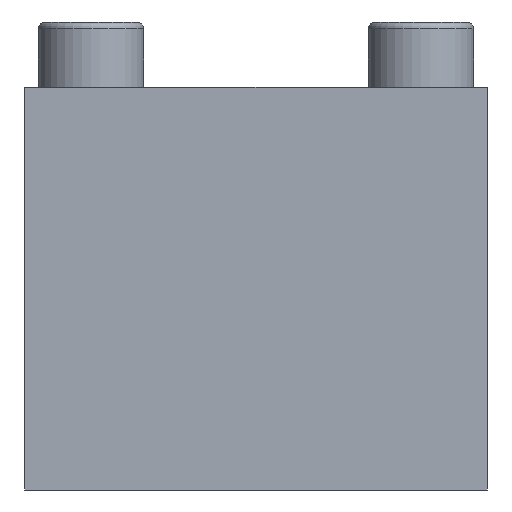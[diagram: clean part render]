
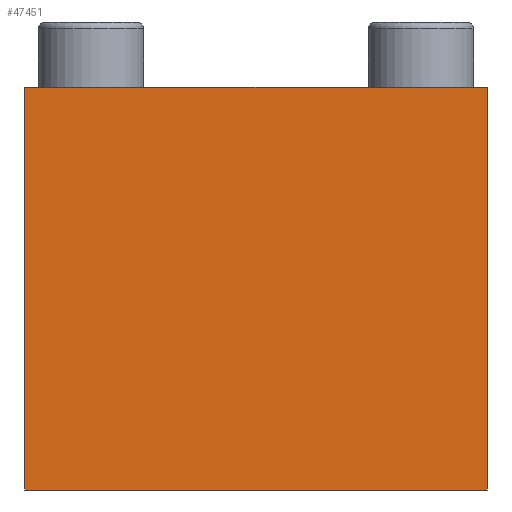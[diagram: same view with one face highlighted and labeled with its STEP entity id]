
A CAD part, front view. The second image highlights one B-rep face of the part: STEP entity #47451.
In plain terms, the highlighted planar face has unit normal (0, -1, 0).
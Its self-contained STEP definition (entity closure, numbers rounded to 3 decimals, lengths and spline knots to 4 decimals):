
#2087=LINE('',#61416,#7283);
#3418=LINE('',#66601,#8614);
#3421=LINE('',#66607,#8617);
#3422=LINE('',#66608,#8618);
#7283=VECTOR('',#52116,7.);
#8614=VECTOR('',#53571,6.1);
#8617=VECTOR('',#53576,6.1);
#8618=VECTOR('',#53577,7.);
#12482=PLANE('',#50071);
#14684=FACE_OUTER_BOUND('',#17464,.T.);
#17464=EDGE_LOOP('',(#33332,#33333,#33334,#33335));
#20223=VERTEX_POINT('',#61413);
#20224=VERTEX_POINT('',#61415);
#22080=VERTEX_POINT('',#66600);
#22082=VERTEX_POINT('',#66606);
#24727=EDGE_CURVE('',#20223,#20224,#2087,.T.);
#26584=EDGE_CURVE('',#20223,#22080,#3418,.T.);
#26587=EDGE_CURVE('',#20224,#22082,#3421,.T.);
#26588=EDGE_CURVE('',#22082,#22080,#3422,.T.);
#33332=ORIENTED_EDGE('',*,*,#26587,.F.);
#33333=ORIENTED_EDGE('',*,*,#24727,.F.);
#33334=ORIENTED_EDGE('',*,*,#26584,.T.);
#33335=ORIENTED_EDGE('',*,*,#26588,.F.);
#47451=ADVANCED_FACE('',(#14684),#12482,.T.);
#50071=AXIS2_PLACEMENT_3D('',#66605,#53574,#53575);
#52116=DIRECTION('',(1.,0.,0.));
#53571=DIRECTION('',(0.,0.,-1.));
#53574=DIRECTION('center_axis',(0.,-1.,0.));
#53575=DIRECTION('ref_axis',(-1.,0.,0.));
#53576=DIRECTION('',(0.,0.,-1.));
#53577=DIRECTION('',(-1.,0.,0.));
#61413=CARTESIAN_POINT('',(-3.5,-17.5,4.85));
#61415=CARTESIAN_POINT('',(3.5,-17.5,4.85));
#61416=CARTESIAN_POINT('',(3.5,-17.5,4.85));
#66600=CARTESIAN_POINT('',(-3.5,-17.5,-1.25));
#66601=CARTESIAN_POINT('',(-3.5,-17.5,0.));
#66605=CARTESIAN_POINT('Origin',(3.5,-17.5,3.6));
#66606=CARTESIAN_POINT('',(3.5,-17.5,-1.25));
#66607=CARTESIAN_POINT('',(3.5,-17.5,0.));
#66608=CARTESIAN_POINT('',(3.5,-17.5,-1.25));
